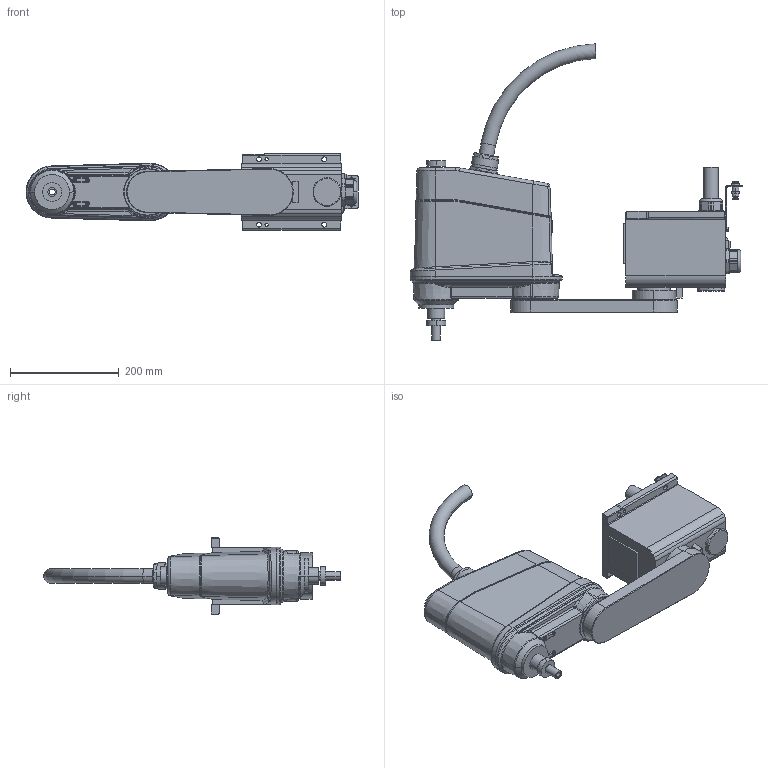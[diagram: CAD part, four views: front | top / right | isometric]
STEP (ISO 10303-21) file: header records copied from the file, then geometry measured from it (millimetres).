
FILE_DESCRIPTION((''),'2;1');
FILE_NAME('THL400-T_3D_ASM','2024-06-11T15:39:44',('15575'),(''),'CREO PARAMETRIC BY PTC INC, 2020454','CREO PARAMETRIC BY PTC INC, 2020454','');
FILE_SCHEMA(('AUTOMOTIVE_DESIGN { 1 0 10303 214 1 1 1 1 }'));
Length unit declared in the file: millimetre
Products named in the file (5): THL400-T_BASE; THL400-T_1ST_ARM; THL400-T_BALL_SCREW; THL400-T_2ND_ARM2; THL400-T_3D_ASM
Assembly tree (4 placements, depth 2):
  THL400-T_3D_ASM
    THL400-T_BASE
    THL400-T_1ST_ARM
    THL400-T_BALL_SCREW
    THL400-T_2ND_ARM2
Bounding box: 610 x 544.69 x 140 mm (x, y, z)
Volume: 3088169.9 mm3; surface area: 777347.3 mm2
Topology: 4 solids, 8 shells, 1146 faces, 2748 edges, 1746 vertices
Faces by surface type: cylinder 451, plane 448, torus 94, bspline 93, cone 48, sphere 12
Entity records: 43111 total; most frequent: CARTESIAN_POINT 11111, DIRECTION 5752, ORIENTED_EDGE 5496, EDGE_CURVE 2748, AXIS2_PLACEMENT_3D 2249, VERTEX_POINT 1746, EDGE_LOOP 1310, VECTOR 1254
